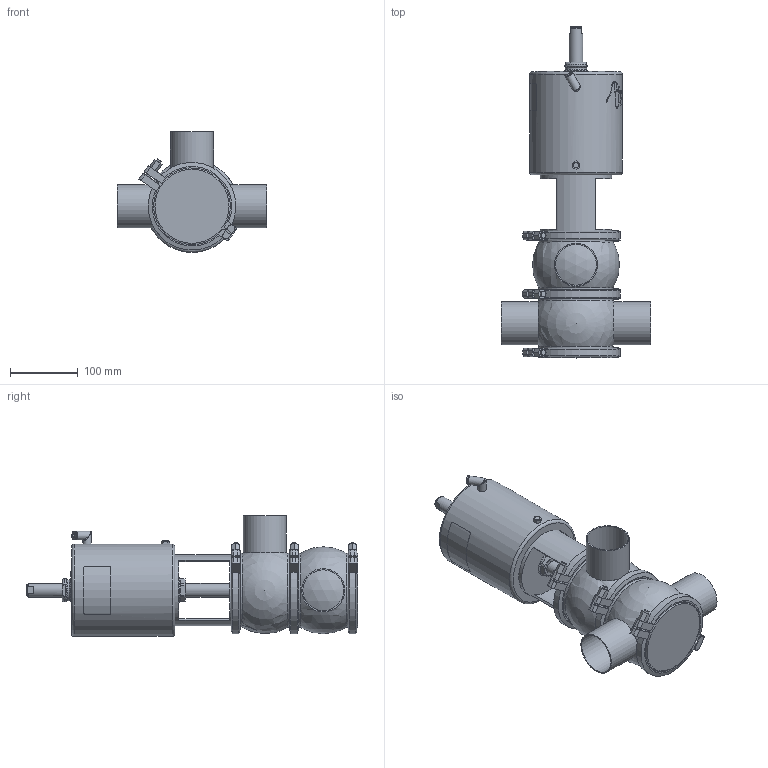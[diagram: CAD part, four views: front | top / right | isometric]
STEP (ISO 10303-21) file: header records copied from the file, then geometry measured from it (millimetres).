
FILE_DESCRIPTION (( 'STEP AP214' ), '1' );
FILE_NAME ('INNOVA M B W OD 2½ T3 AS NC_10.241.16.0004.STEP', '2024-08-07T13:08:25', ( '' ), ( '' ), 'SwSTEP 2.0', 'SolidWorks 2023', '' );
FILE_SCHEMA (( 'AUTOMOTIVE_DESIGN' ));
Length unit declared in the file: millimetre
Products named in the file (7): 10.241.15.0001_DIN 065; 10.240.15.0007_OD 2½"; 10.240.15.0014_T3 AS P180; 10.240.15.0006_OD 2½"; 10.240.15.0001_DN 065; 10.240.15.0010_DN 065; INNOVA M B W OD 2½ T3 AS NC_10.241.16.0004
Assembly tree (8 placements, depth 2):
  INNOVA M B W OD 2½ T3 AS NC_10.241.16.0004
    10.240.15.0006_OD 2½"
    10.240.15.0007_OD 2½"
    10.240.15.0010_DN 065
    10.240.15.0014_T3 AS P180
    10.240.15.0001_DN 065  x3
    10.241.15.0001_DIN 065
Bounding box: 220 x 488.5 x 178 mm (x, y, z)
Volume: 4620677.5 mm3; surface area: 440300.9 mm2
Topology: 9 solids, 9 shells, 463 faces, 1219 edges, 795 vertices
Faces by surface type: plane 226, cylinder 112, bspline 80, cone 36, sphere 5, torus 4
Full cylindrical faces by diameter (mm): 6.15 x1, 8 x7, 8.5 x1, 10.5 x1, 12.5 x3, 16 x1, 20 x2, 31 x1, 34.5 x2, 36.5 x1, 60.2 x3, 63.5 x3, 105 x1, 109 x5, 121 x6, 136 x1
Entity records: 20735 total; most frequent: CARTESIAN_POINT 11320, ORIENTED_EDGE 1624, DIRECTION 1271, EDGE_CURVE 812, VERTEX_POINT 563, AXIS2_PLACEMENT_3D 491, EDGE_LOOP 431, FACE_OUTER_BOUND 386
